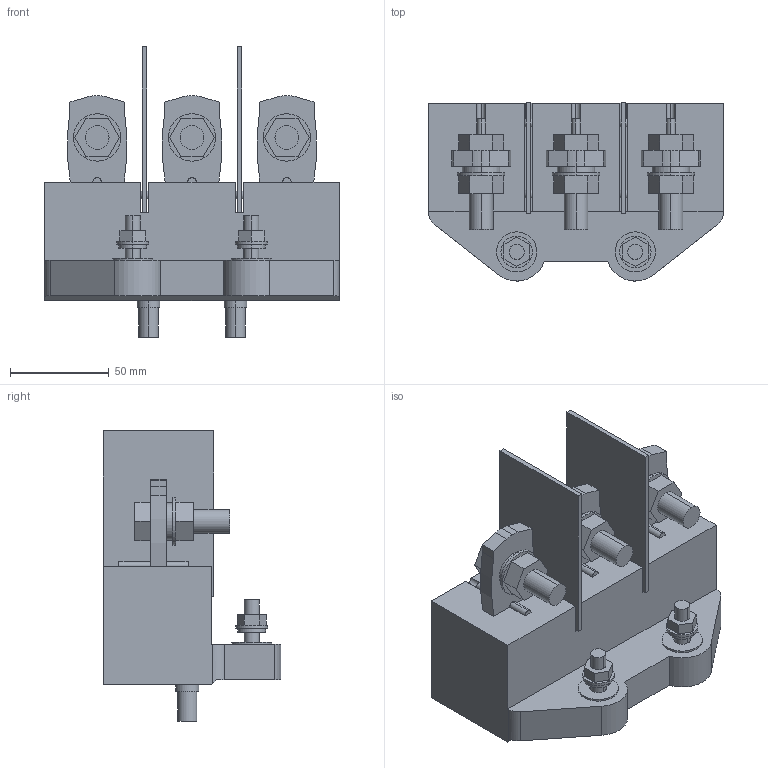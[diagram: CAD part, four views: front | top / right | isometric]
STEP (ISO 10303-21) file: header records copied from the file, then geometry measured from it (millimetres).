
FILE_DESCRIPTION (( 'STEP AP214' ), '1' );
FILE_NAME ('Âòû÷íîå îñíîâàíèå çàäíåå TEM5E-TDM-630.STEP', '2025-12-08T07:04:17', ( '' ), ( '' ), 'SwSTEP 2.0', 'SolidWorks 2024', '' );
FILE_SCHEMA (( 'AUTOMOTIVE_DESIGN' ));
Length unit declared in the file: millimetre
Products named in the file (7): boj26D43AE58wmb_1.stp; boj26D43AE58wmb_4.stp; boj26D43AE58wmb_3.stp; Втычное основание заднее TEM5E-TDM-630.stp; boj26D43AE58wmb_2.stp; boj26D43AE58wmb_5.stp; Втычное основание заднее TEM5E-TDM-630
Assembly tree (6 placements, depth 3):
  Втычное основание заднее TEM5E-TDM-630
    Втычное основание заднее TEM5E-TDM-630.stp
      boj26D43AE58wmb_1.stp
      boj26D43AE58wmb_2.stp
      boj26D43AE58wmb_3.stp
      boj26D43AE58wmb_4.stp
      boj26D43AE58wmb_5.stp
Bounding box: 149 x 89.97 x 147 mm (x, y, z)
Volume: 631991.2 mm3; surface area: 100856.1 mm2
Topology: 5 solids, 5 shells, 324 faces, 798 edges, 530 vertices
Faces by surface type: plane 214, cylinder 94, cone 16
Entity records: 9795 total; most frequent: DIRECTION 1684, CARTESIAN_POINT 1668, ORIENTED_EDGE 1596, EDGE_CURVE 798, LINE 576, VECTOR 576, AXIS2_PLACEMENT_3D 554, VERTEX_POINT 530
